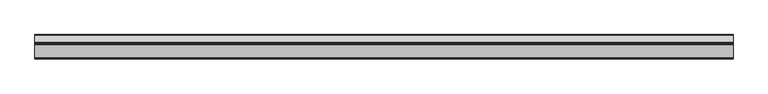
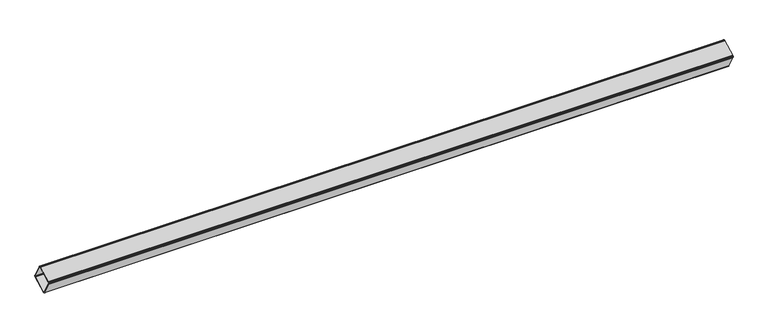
"""IFC4 building model written with IfcOpenShell, lengths in millimetres: beam geometry, Buton 148855 : Buton 148855."""

from ifc_helpers import new_model, si_unit, frame, origin, place, context, project, spatial, polyline, outline, extrude, source, transform, mapped, element, save


def beam_697c9d13(model_context):
    return source(origin(), model_context, "Body", "SweptSolid", [
        extrude(outline(polyline([(-16297.5277892, 10145.6096056), (-16224.153053, 10186.501513), (-16221.8030118, 10187.3629491), (-16219.3017914, 10187.4560209), (-16216.8942286, 10186.7716177), (-16214.8159926, 10185.3767339), (-16213.2705155, 10183.4079103), (-16172.3786081, 10110.0331741), (-16171.517172, 10107.6831329), (-16171.4241002, 10105.1819125), (-16172.1085034, 10102.7743498), (-16173.5033872, 10100.6961137), (-16175.4722108, 10099.1506366), (-16248.846947, 10058.2587292), (-16251.1969882, 10057.3972931), (-16253.6982086, 10057.3042213), (-16256.1057714, 10057.9886245), (-16258.1840074, 10059.3835083), (-16259.7294845, 10061.3523319), (-16300.6213919, 10134.7270681), (-16301.482828, 10137.0771093), (-16301.5758998, 10139.5783297), (-16300.8914966, 10141.9858925), (-16299.4966128, 10144.0641285), (-16297.5277892, 10145.6096056)]), holes=[polyline([(-16297.1273569, 10136.6743018), (-16256.2354494, 10063.2995656), (-16255.4627109, 10062.3151538), (-16254.4235929, 10061.6177119), (-16253.2198115, 10061.2755103), (-16251.9692013, 10061.3220462), (-16250.7941807, 10061.7527643), (-16177.4194445, 10102.6446717), (-16176.4350327, 10103.4174102), (-16175.7375908, 10104.4565283), (-16175.3953892, 10105.6603096), (-16175.4419251, 10106.9109198), (-16175.8726431, 10108.0859404), (-16216.7645506, 10181.4606766), (-16217.5372891, 10182.4450884), (-16218.5764071, 10183.1425303), (-16219.7801885, 10183.4847319), (-16221.0307987, 10183.438196), (-16222.2058193, 10183.007478), (-16295.5805555, 10142.1155705), (-16296.5649673, 10141.342832), (-16297.2624092, 10140.303714), (-16297.6046108, 10139.0999326), (-16297.5580749, 10137.8493224), (-16297.1273569, 10136.6743018)])]), frame((-115.0000001, 0.0, 0.0), z_axis=(1.0, 0.0, 0.0), x_axis=(0.0, 1.0, 0.0)), (0.0, 0.0, 1.0), 3752.5),
    ])


if __name__ == "__main__":
    model = new_model("IFC4")
    model_context = context("Model", 3, world=origin())
    ifc_project = project(units=[si_unit("LENGTHUNIT", "METRE", prefix="MILLI")], contexts=[model_context])
    site = spatial("IfcSite", under=ifc_project)
    building = spatial("IfcBuilding", under=site)
    placement = place(None, origin())
    beam_shape = beam_697c9d13(model_context)
    element("IfcBeam", 1, ObjectType="Buton 148855 : Buton 148855", at=placement, inside=building, context=model_context, shape_type="MappedRepresentation", body=[
        mapped(beam_shape, transform((0.0, 0.0, 0.0), x_axis=(1.0, 0.0, 0.0), y_axis=(0.0, 1.0, 0.0), z_axis=(0.0, 0.0, 1.0))),
    ])
    save(model, "model.ifc")
